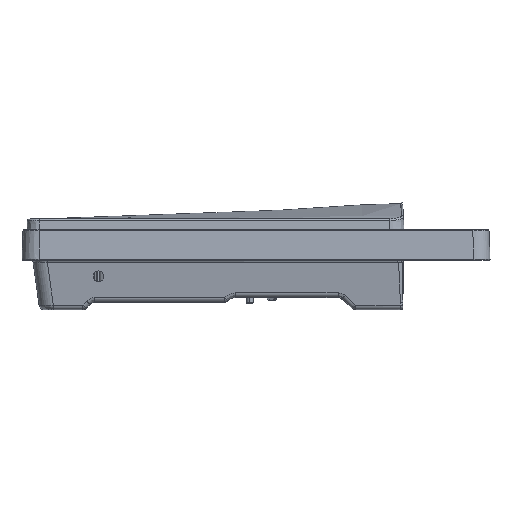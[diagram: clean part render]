
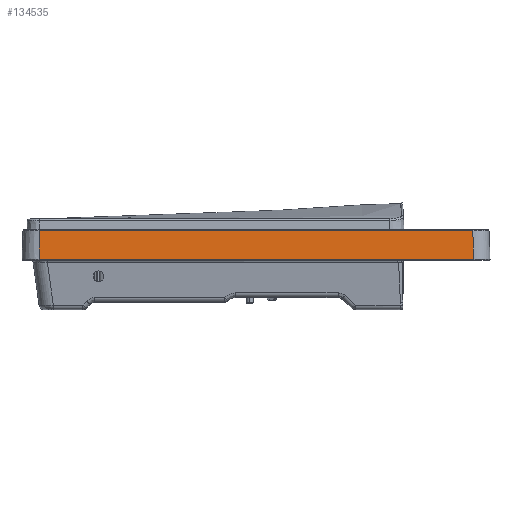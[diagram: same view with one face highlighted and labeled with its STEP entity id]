
A CAD part, left-side view. The second image highlights one B-rep face of the part: STEP entity #134535.
In plain terms, the highlighted planar face has unit normal (-0.999, 0, 0.035).
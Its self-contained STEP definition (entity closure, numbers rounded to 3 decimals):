
#134124 = VERTEX_POINT('',#134125);
#134125 = CARTESIAN_POINT('',(-146.134,184.5,1.035));
#134150 = EDGE_CURVE('',#134124,#134151,#134153,.T.);
#134151 = VERTEX_POINT('',#134152);
#134152 = CARTESIAN_POINT('',(-146.134,-269.444,
    1.035));
#134153 = LINE('',#134154,#134155);
#134154 = CARTESIAN_POINT('',(-146.134,184.5,
    1.035));
#134155 = VECTOR('',#134156,1.);
#134156 = DIRECTION('',(0.,-1.,0.));
#134493 = VERTEX_POINT('',#134494);
#134494 = CARTESIAN_POINT('',(-147.187,184.5,-29.21));
#134522 = EDGE_CURVE('',#134124,#134493,#134523,.T.);
#134523 = LINE('',#134524,#134525);
#134524 = CARTESIAN_POINT('',(-146.134,184.5,
    1.035));
#134525 = VECTOR('',#134526,1.);
#134526 = DIRECTION('',(-0.035,0.,
    -0.999));
#134535 = ADVANCED_FACE('',(#134536),#134554,.T.);
#134536 = FACE_BOUND('',#134537,.T.);
#134537 = EDGE_LOOP('',(#134538,#134546,#134547,#134548));
#134538 = ORIENTED_EDGE('',*,*,#134539,.F.);
#134539 = EDGE_CURVE('',#134151,#134540,#134542,.T.);
#134540 = VERTEX_POINT('',#134541);
#134541 = CARTESIAN_POINT('',(-147.187,-270.5,
    -29.21));
#134542 = LINE('',#134543,#134544);
#134543 = CARTESIAN_POINT('',(-146.134,-269.444,
    1.035));
#134544 = VECTOR('',#134545,1.);
#134545 = DIRECTION('',(-0.035,-0.035,
    -0.999));
#134546 = ORIENTED_EDGE('',*,*,#134150,.F.);
#134547 = ORIENTED_EDGE('',*,*,#134522,.T.);
#134548 = ORIENTED_EDGE('',*,*,#134549,.F.);
#134549 = EDGE_CURVE('',#134540,#134493,#134550,.T.);
#134550 = LINE('',#134551,#134552);
#134551 = CARTESIAN_POINT('',(-147.189,-270.5,
    -29.21));
#134552 = VECTOR('',#134553,1.);
#134553 = DIRECTION('',(0.,1.,
    0.));
#134554 = PLANE('',#134555);
#134555 = AXIS2_PLACEMENT_3D('',#134556,#134557,#134558);
#134556 = CARTESIAN_POINT('',(-146.1,209.436,2.));
#134557 = DIRECTION('',(-0.999,0.,0.035));
#134558 = DIRECTION('',(0.,-1.,0.));
